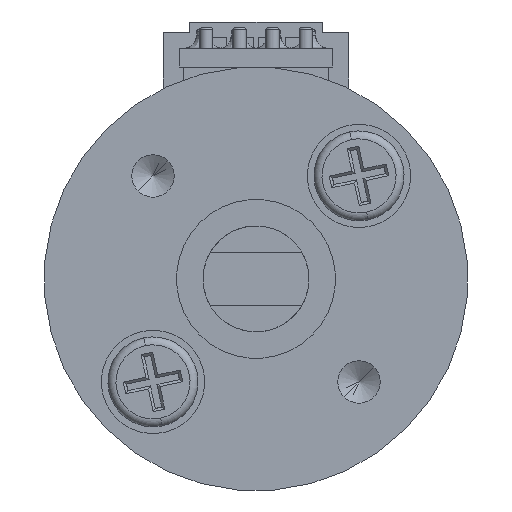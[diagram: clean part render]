
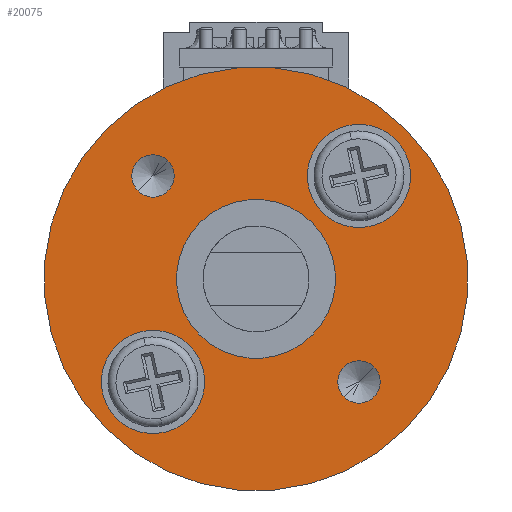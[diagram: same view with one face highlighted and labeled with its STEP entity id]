
A CAD part, front view. The second image highlights one B-rep face of the part: STEP entity #20075.
In plain terms, the highlighted planar face has unit normal (0, -1, 0) as drawn and (1, 0, 0) by its records, which use the part's own axes.
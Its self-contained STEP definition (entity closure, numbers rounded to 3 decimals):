
#260 = CIRCLE ( 'NONE', #32632, 1.95 ) ;
#266 = EDGE_LOOP ( 'NONE', ( #16244, #3791 ) ) ;
#313 = AXIS2_PLACEMENT_3D ( 'NONE', #18521, #4070, #23976 ) ;
#373 = DIRECTION ( 'NONE',  ( 0., 0., -1. ) ) ;
#462 = CIRCLE ( 'NONE', #37546, 0.8 ) ;
#993 = VERTEX_POINT ( 'NONE', #27037 ) ;
#1583 = PLANE ( 'NONE',  #2869 ) ;
#2869 = AXIS2_PLACEMENT_3D ( 'NONE', #10370, #24795, #33658 ) ;
#2951 = ORIENTED_EDGE ( 'NONE', *, *, #17785, .F. ) ;
#3190 = CIRCLE ( 'NONE', #6957, 0.8 ) ;
#3575 = ORIENTED_EDGE ( 'NONE', *, *, #10440, .F. ) ;
#3608 = ORIENTED_EDGE ( 'NONE', *, *, #34959, .T. ) ;
#3791 = ORIENTED_EDGE ( 'NONE', *, *, #27095, .F. ) ;
#4070 = DIRECTION ( 'NONE',  ( 1., 0., 0. ) ) ;
#4513 = DIRECTION ( 'NONE',  ( 0., 0., -1. ) ) ;
#4741 = DIRECTION ( 'NONE',  ( 0., 0., -1. ) ) ;
#5004 = CARTESIAN_POINT ( 'NONE',  ( 18.6, 5.5, 0.8 ) ) ;
#5383 = VERTEX_POINT ( 'NONE', #31605 ) ;
#5391 = CARTESIAN_POINT ( 'NONE',  ( 18.6, -5.5, -0.8 ) ) ;
#5601 = EDGE_CURVE ( 'NONE', #7921, #27491, #12442, .T. ) ;
#5831 = AXIS2_PLACEMENT_3D ( 'NONE', #24660, #10367, #27592 ) ;
#5954 = DIRECTION ( 'NONE',  ( -1., 0., 0. ) ) ;
#5962 = CARTESIAN_POINT ( 'NONE',  ( 18.6, 0., 0. ) ) ;
#6149 = DIRECTION ( 'NONE',  ( 0., 0., -1. ) ) ;
#6385 = DIRECTION ( 'NONE',  ( 1., 0., 0. ) ) ;
#6957 = AXIS2_PLACEMENT_3D ( 'NONE', #10584, #16460, #4741 ) ;
#7230 = ORIENTED_EDGE ( 'NONE', *, *, #7898, .F. ) ;
#7406 = EDGE_LOOP ( 'NONE', ( #3575, #15012 ) ) ;
#7568 = FACE_BOUND ( 'NONE', #32886, .T. ) ;
#7761 = ORIENTED_EDGE ( 'NONE', *, *, #25590, .F. ) ;
#7898 = EDGE_CURVE ( 'NONE', #32922, #29047, #25335, .T. ) ;
#7921 = VERTEX_POINT ( 'NONE', #28077 ) ;
#9177 = CARTESIAN_POINT ( 'NONE',  ( 18.6, 0., -3.55 ) ) ;
#9348 = CIRCLE ( 'NONE', #5831, 0.8 ) ;
#9923 = DIRECTION ( 'NONE',  ( 1., 0., 0. ) ) ;
#10188 = CARTESIAN_POINT ( 'NONE',  ( 18.6, 0., -3. ) ) ;
#10367 = DIRECTION ( 'NONE',  ( 1., 0., 0. ) ) ;
#10370 = CARTESIAN_POINT ( 'NONE',  ( 18.6, 8., 0. ) ) ;
#10440 = EDGE_CURVE ( 'NONE', #27491, #7921, #19727, .T. ) ;
#10584 = CARTESIAN_POINT ( 'NONE',  ( 18.6, 5.5, 0. ) ) ;
#11241 = EDGE_CURVE ( 'NONE', #32836, #36639, #3190, .T. ) ;
#11282 = AXIS2_PLACEMENT_3D ( 'NONE', #11816, #32426, #23562 ) ;
#11816 = CARTESIAN_POINT ( 'NONE',  ( 18.6, 0., 0. ) ) ;
#12124 = FACE_BOUND ( 'NONE', #16559, .T. ) ;
#12232 = ORIENTED_EDGE ( 'NONE', *, *, #24030, .F. ) ;
#12239 = CARTESIAN_POINT ( 'NONE',  ( 18.6, 0., -5.5 ) ) ;
#12442 = CIRCLE ( 'NONE', #13341, 1.95 ) ;
#12750 = CARTESIAN_POINT ( 'NONE',  ( 18.6, 0., -5.5 ) ) ;
#12908 = CARTESIAN_POINT ( 'NONE',  ( 18.6, 0., -8. ) ) ;
#12971 = CIRCLE ( 'NONE', #29837, 3. ) ;
#13201 = CIRCLE ( 'NONE', #21293, 8. ) ;
#13341 = AXIS2_PLACEMENT_3D ( 'NONE', #26034, #23234, #6149 ) ;
#13488 = FACE_BOUND ( 'NONE', #266, .T. ) ;
#14035 = DIRECTION ( 'NONE',  ( 1., 0., 0. ) ) ;
#14404 = AXIS2_PLACEMENT_3D ( 'NONE', #25038, #22235, #4513 ) ;
#15001 = DIRECTION ( 'NONE',  ( 0., 0., 1. ) ) ;
#15012 = ORIENTED_EDGE ( 'NONE', *, *, #5601, .F. ) ;
#16244 = ORIENTED_EDGE ( 'NONE', *, *, #32644, .F. ) ;
#16460 = DIRECTION ( 'NONE',  ( 1., 0., 0. ) ) ;
#16559 = EDGE_LOOP ( 'NONE', ( #30295, #7761 ) ) ;
#16785 = ORIENTED_EDGE ( 'NONE', *, *, #26181, .F. ) ;
#16871 = ORIENTED_EDGE ( 'NONE', *, *, #36312, .T. ) ;
#17704 = DIRECTION ( 'NONE',  ( -1., 0., 0. ) ) ;
#17785 = EDGE_CURVE ( 'NONE', #36842, #5383, #28819, .T. ) ;
#18521 = CARTESIAN_POINT ( 'NONE',  ( 18.6, 0., 5.5 ) ) ;
#18899 = DIRECTION ( 'NONE',  ( 0., 0., 1. ) ) ;
#19727 = CIRCLE ( 'NONE', #313, 1.95 ) ;
#19894 = FACE_BOUND ( 'NONE', #31464, .T. ) ;
#19903 = DIRECTION ( 'NONE',  ( 0., 0., -1. ) ) ;
#20075 = ADVANCED_FACE ( 'NONE', ( #7568, #12124, #24907, #13488, #31233, #19894 ), #1583, .F. ) ;
#21293 = AXIS2_PLACEMENT_3D ( 'NONE', #23421, #5954, #15001 ) ;
#21420 = CARTESIAN_POINT ( 'NONE',  ( 18.6, 0., -7.45 ) ) ;
#21529 = DIRECTION ( 'NONE',  ( -1., 0., 0. ) ) ;
#21671 = DIRECTION ( 'NONE',  ( 0., 0., -1. ) ) ;
#22235 = DIRECTION ( 'NONE',  ( 1., 0., 0. ) ) ;
#22688 = CARTESIAN_POINT ( 'NONE',  ( 18.6, 0., 3.55 ) ) ;
#23180 = DIRECTION ( 'NONE',  ( 0., 0., 1. ) ) ;
#23234 = DIRECTION ( 'NONE',  ( 1., 0., 0. ) ) ;
#23421 = CARTESIAN_POINT ( 'NONE',  ( 18.6, 0., 0. ) ) ;
#23562 = DIRECTION ( 'NONE',  ( 0., 0., 1. ) ) ;
#23976 = DIRECTION ( 'NONE',  ( 0., 0., -1. ) ) ;
#24030 = EDGE_CURVE ( 'NONE', #29047, #32922, #9348, .T. ) ;
#24660 = CARTESIAN_POINT ( 'NONE',  ( 18.6, -5.5, 0. ) ) ;
#24795 = DIRECTION ( 'NONE',  ( -1., 0., 0. ) ) ;
#24907 = FACE_BOUND ( 'NONE', #7406, .T. ) ;
#25038 = CARTESIAN_POINT ( 'NONE',  ( 18.6, -5.5, 0. ) ) ;
#25181 = AXIS2_PLACEMENT_3D ( 'NONE', #32952, #21529, #18899 ) ;
#25335 = CIRCLE ( 'NONE', #14404, 0.8 ) ;
#25590 = EDGE_CURVE ( 'NONE', #36639, #32836, #462, .T. ) ;
#26034 = CARTESIAN_POINT ( 'NONE',  ( 18.6, 0., 5.5 ) ) ;
#26181 = EDGE_CURVE ( 'NONE', #5383, #36842, #13201, .T. ) ;
#27037 = CARTESIAN_POINT ( 'NONE',  ( 18.6, 0., 3. ) ) ;
#27095 = EDGE_CURVE ( 'NONE', #32561, #31680, #260, .T. ) ;
#27491 = VERTEX_POINT ( 'NONE', #22688 ) ;
#27592 = DIRECTION ( 'NONE',  ( 0., 0., -1. ) ) ;
#27770 = CARTESIAN_POINT ( 'NONE',  ( 18.6, 5.5, -0.8 ) ) ;
#28077 = CARTESIAN_POINT ( 'NONE',  ( 18.6, 0., 7.45 ) ) ;
#28819 = CIRCLE ( 'NONE', #11282, 8. ) ;
#29047 = VERTEX_POINT ( 'NONE', #5391 ) ;
#29837 = AXIS2_PLACEMENT_3D ( 'NONE', #5962, #17704, #23180 ) ;
#30190 = AXIS2_PLACEMENT_3D ( 'NONE', #12750, #9923, #21671 ) ;
#30295 = ORIENTED_EDGE ( 'NONE', *, *, #11241, .F. ) ;
#31233 = FACE_OUTER_BOUND ( 'NONE', #35095, .T. ) ;
#31337 = CARTESIAN_POINT ( 'NONE',  ( 18.6, 5.5, 0. ) ) ;
#31464 = EDGE_LOOP ( 'NONE', ( #3608, #16871 ) ) ;
#31562 = CARTESIAN_POINT ( 'NONE',  ( 18.6, -5.5, 0.8 ) ) ;
#31605 = CARTESIAN_POINT ( 'NONE',  ( 18.6, 0., 8. ) ) ;
#31680 = VERTEX_POINT ( 'NONE', #21420 ) ;
#31820 = VERTEX_POINT ( 'NONE', #10188 ) ;
#32426 = DIRECTION ( 'NONE',  ( -1., 0., 0. ) ) ;
#32561 = VERTEX_POINT ( 'NONE', #9177 ) ;
#32632 = AXIS2_PLACEMENT_3D ( 'NONE', #12239, #6385, #373 ) ;
#32644 = EDGE_CURVE ( 'NONE', #31680, #32561, #34155, .T. ) ;
#32836 = VERTEX_POINT ( 'NONE', #27770 ) ;
#32886 = EDGE_LOOP ( 'NONE', ( #12232, #7230 ) ) ;
#32922 = VERTEX_POINT ( 'NONE', #31562 ) ;
#32952 = CARTESIAN_POINT ( 'NONE',  ( 18.6, 0., 0. ) ) ;
#33658 = DIRECTION ( 'NONE',  ( 0., 0., 1. ) ) ;
#34155 = CIRCLE ( 'NONE', #30190, 1.95 ) ;
#34734 = CIRCLE ( 'NONE', #25181, 3. ) ;
#34959 = EDGE_CURVE ( 'NONE', #993, #31820, #34734, .T. ) ;
#35095 = EDGE_LOOP ( 'NONE', ( #16785, #2951 ) ) ;
#36312 = EDGE_CURVE ( 'NONE', #31820, #993, #12971, .T. ) ;
#36639 = VERTEX_POINT ( 'NONE', #5004 ) ;
#36842 = VERTEX_POINT ( 'NONE', #12908 ) ;
#37546 = AXIS2_PLACEMENT_3D ( 'NONE', #31337, #14035, #19903 ) ;
